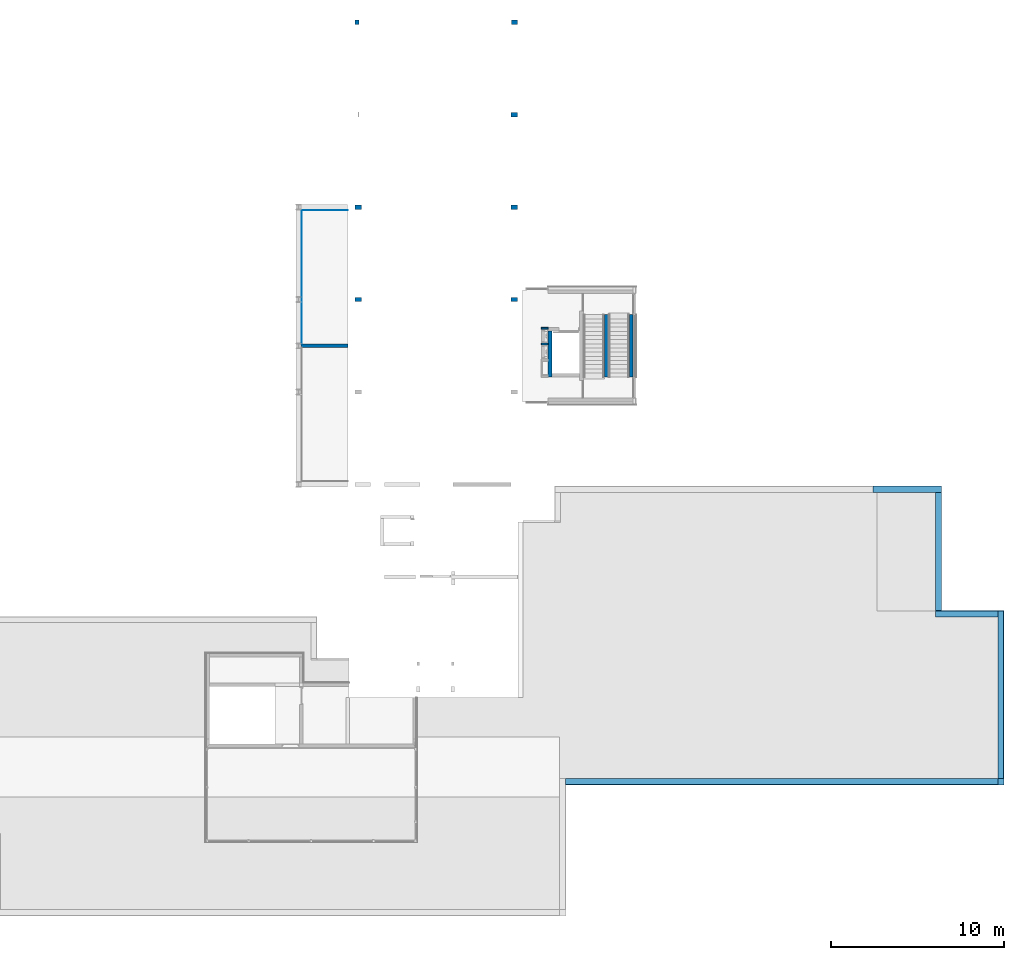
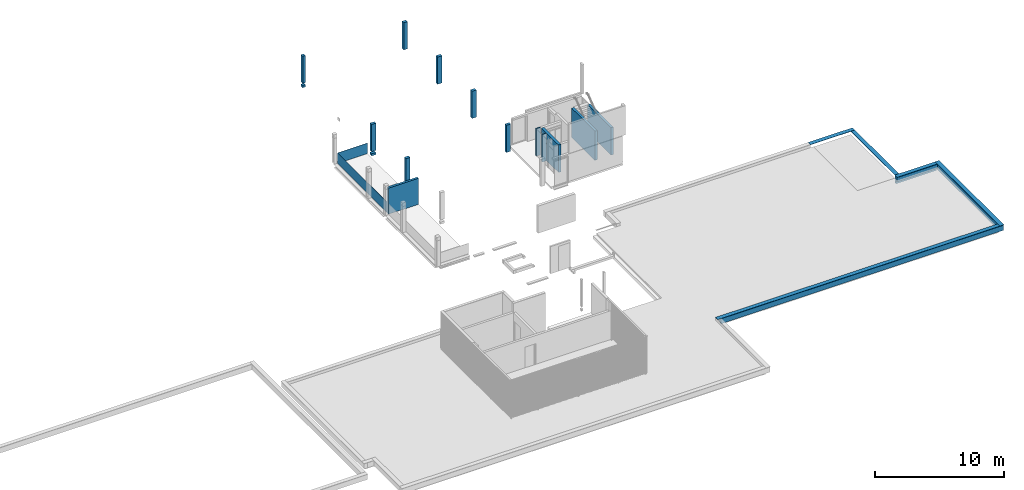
# One storey, part 6 of 22: 23 walls.
"""IFC2X3 building model written with IfcOpenShell, lengths in millimetres."""

from ifc_helpers import new_model, entity, si_unit, converted_unit, derived_unit, money_unit, direction, frame, origin_with_axes, place, context, subcontext, project, spatial, faceted_brep, material, type_object, element, save


model = new_model("IFC2X3")

# Units and contexts
model_context = context("Model", 3, precision=0.01, world=origin_with_axes(), true_north=direction((0.0, 1.0)))
body_context = subcontext(model_context, "Body", "Model", "MODEL_VIEW")
ifc_project = project(units=[si_unit("LENGTHUNIT", "METRE", prefix="MILLI"), si_unit("AREAUNIT", "SQUARE_METRE"), si_unit("VOLUMEUNIT", "CUBIC_METRE"), converted_unit("PLANEANGLEUNIT", "DEGREE", entity("IfcPlaneAngleMeasure", 0.0174532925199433), si_unit("PLANEANGLEUNIT", "RADIAN"), dimensions=[0, 0, 0, 0, 0, 0, 0]), money_unit("EUR"), converted_unit("TIMEUNIT", "Year", entity("IfcTimeMeasure", 31557600.0), si_unit("TIMEUNIT", "SECOND"), dimensions=[0, 0, 1, 0, 0, 0, 0]), si_unit("MASSUNIT", "GRAM", prefix="KILO"), si_unit("THERMODYNAMICTEMPERATUREUNIT", "DEGREE_CELSIUS"), si_unit("LUMINOUSINTENSITYUNIT", "LUMEN"), si_unit("ENERGYUNIT", "JOULE", prefix="MEGA"), derived_unit("THERMALCONDUCTANCEUNIT", [(si_unit("POWERUNIT", "WATT"), 1), (si_unit("LENGTHUNIT", "METRE"), -1), (si_unit("THERMODYNAMICTEMPERATUREUNIT", "KELVIN"), -1)]), derived_unit("SPECIFICHEATCAPACITYUNIT", [(si_unit("ENERGYUNIT", "JOULE"), 1), (si_unit("MASSUNIT", "GRAM", prefix="KILO"), -1), (si_unit("THERMODYNAMICTEMPERATUREUNIT", "KELVIN"), -1)]), derived_unit("MASSDENSITYUNIT", [(si_unit("MASSUNIT", "GRAM", prefix="KILO"), 1), (si_unit("VOLUMEUNIT", "CUBIC_METRE"), -1)])], contexts=[model_context])

# Site, building, storey
site_placement = place(None, origin_with_axes())
site = spatial("IfcSite", under=ifc_project, at=site_placement, Name="Site", CompositionType="ELEMENT")
building_placement = place(site_placement, origin_with_axes())
building = spatial("IfcBuilding", under=site, at=building_placement, Name="Naam gebouw", CompositionType="ELEMENT")
storey_placement = place(building_placement, frame((0.0, 0.0, 11150.0), z_axis=(0.0, 0.0, 1.0), x_axis=(1.0, 0.0, 0.0)))
storey = spatial("IfcBuildingStorey", under=building, at=storey_placement, Name="3e verdieping/dak N", CompositionType="ELEMENT", Elevation=11150.0)

# Walls
ifc_material_1 = material(Name="ALG - CONSTRUCTIEF")
wall_type_1 = type_object("IfcWallType", Name="ALG - CONSTRUCTIEF 330", PredefinedType="NOTDEFINED")
wall_1_placement = place(storey_placement, frame((57599.99999999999, 20325.9124251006, -299.9999761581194), z_axis=(0.0, 0.0, 1.0), x_axis=(-1.0, 0.0, 0.0)))
element("IfcWall", 1, at=wall_1_placement, inside=storey, type_object=wall_type_1, material=ifc_material_1, Name="_Wand-x", context=body_context, shape_type="Brep", body=[
    faceted_brep([(0.0, 0.0, 299.9999761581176), (0.0, -175.0000000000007, 299.9999761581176), (0.0, -175.0000000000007, -2.384188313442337e-05), (0.0, -329.9999999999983, 0.0), (0.0, -329.9999999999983, 699.9999761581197), (0.0, 0.0, 699.9999761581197), (3600.000000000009, -175.0000000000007, 299.9999761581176), (3600.000000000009, 0.0, 299.9999761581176), (3600.000000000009, -175.0000000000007, -2.384188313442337e-05), (3600.000000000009, -330.0000000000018, 0.0), (3600.000000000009, -330.0000000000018, 699.9999761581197), (3600.000000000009, 0.0, 699.9999761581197)], [[[0, 1, 2, 3, 4, 5]], [[6, 1, 0, 7]], [[8, 2, 1, 6]], [[3, 2, 8, 9]], [[10, 4, 3, 9]], [[4, 10, 11, 5]], [[11, 7, 0, 5]], [[8, 6, 7, 11, 10, 9]]]),
])
wall_2_placement = place(storey_placement, frame((57929.99999999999, 20655.9124251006, -99.99999999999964), z_axis=(0.0, 0.0, 1.0), x_axis=(0.0, -1.0, 0.0)))
element("IfcWall", 2, at=wall_2_placement, inside=storey, type_object=wall_type_1, material=ifc_material_1, Name="_Wand-x", context=body_context, shape_type="Brep", body=[
    faceted_brep([(9664.999999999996, -330.0000000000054, 500.0), (9664.999999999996, 0.0, 500.0), (0.0, 0.0, 500.0), (0.0, -329.9999999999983, 500.0), (9664.999999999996, -330.0000000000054, 0.0), (9664.999999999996, 0.0, 0.0), (0.0, 0.0, 0.0), (0.0, -329.9999999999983, 0.0)], [[[0, 1, 2, 3]], [[1, 0, 4, 5]], [[1, 5, 6, 2]], [[7, 3, 2, 6]], [[4, 0, 3, 7]], [[5, 4, 7, 6]]]),
])
wall_3_placement = place(storey_placement, frame((32675.4702600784, 10660.91242510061, -99.99999999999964), z_axis=(0.0, 0.0, 1.0), x_axis=(1.0, 0.0, 0.0)))
element("IfcWall", 3, at=wall_3_placement, inside=storey, type_object=wall_type_1, material=ifc_material_1, Name="_Wand-x", context=body_context, shape_type="Brep", body=[
    faceted_brep([(24924.52973992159, 330.000000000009, 0.0), (24924.52973992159, 330.000000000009, 99.99999999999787), (0.0, 330.0000000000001, 99.99999999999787), (0.0, 330.0000000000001, 500.0), (25254.52973992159, 330.000000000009, 500.0), (25254.52973992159, 330.000000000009, 0.0), (24924.52973992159, 161.8205560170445, 99.99999999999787), (24924.52973992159, 161.8205560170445, 0.0), (0.0, 167.0482814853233, 99.99999999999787), (634.8773906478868, 161.8205560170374, 99.99999999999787), (634.8773906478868, 167.0482814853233, 99.99999999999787), (0.0, 167.0482814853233, 0.0), (0.0, 0.0, 0.0), (0.0, 0.0, 500.0), (25254.52973992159, 0.0, 500.0), (25254.52973992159, 0.0, 0.0), (634.8773906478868, 161.8205560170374, 0.0), (634.8773906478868, 167.0482814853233, 0.0)], [[[0, 1, 2, 3, 4, 5]], [[6, 1, 0, 7]], [[8, 2, 1, 6, 9, 10]], [[2, 8, 11, 12, 13, 3]], [[13, 14, 4, 3]], [[14, 15, 5, 4]], [[16, 7, 0, 5, 15, 12, 11, 17]], [[6, 7, 16, 9]], [[9, 16, 17, 10]], [[10, 17, 11, 8]], [[12, 15, 14, 13]]]),
])
wall_type_2 = type_object("IfcWallType", Name="ALG - CONSTRUCTIEF 250", PredefinedType="NOTDEFINED")
wall_4_placement = place(storey_placement, frame((20545.0, 38615.91242510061, -99.99999999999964), z_axis=(0.0, 0.0, 1.0), x_axis=(1.0, 0.0, 0.0)))
element("IfcWall", 4, at=wall_4_placement, inside=storey, type_object=wall_type_2, material=ifc_material_1, Name="_Wand-x", context=body_context, shape_type="Brep", body=[
    faceted_brep([(0.0, 125.0, 0.0), (0.0, 125.0, 210.0000000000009), (370.0000000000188, 125.0, 210.0000000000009), (370.0000000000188, 125.0, 0.0), (0.0, -125.0, 0.0), (0.0, -125.0, 210.0000000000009), (370.0000000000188, -125.0, 210.0000000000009), (370.0000000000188, -125.0, 0.0)], [[[0, 1, 2, 3]], [[4, 5, 1, 0]], [[5, 6, 2, 1]], [[3, 2, 6, 7]], [[4, 0, 3, 7]], [[7, 6, 5, 4]]]),
    faceted_brep([(0.0, 125.0, 410.0000000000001), (0.0, 125.0, 2980.0), (370.0000000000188, 125.0, 2980.0), (370.0000000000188, 125.0, 410.0000000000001), (0.0, -125.0, 410.0000000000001), (0.0, -125.0, 2980.0), (370.0000000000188, -125.0, 2980.0), (370.0000000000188, -125.0, 410.0000000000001)], [[[0, 1, 2, 3]], [[4, 5, 1, 0]], [[5, 6, 2, 1]], [[3, 2, 6, 7]], [[4, 0, 3, 7]], [[7, 6, 5, 4]]]),
])
wall_5_placement = place(storey_placement, frame((29535.99999999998, 43945.9124251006, 310.0000000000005), z_axis=(0.0, 0.0, 1.0), x_axis=(1.0, 0.0, 0.0)))
element("IfcWall", 5, at=wall_5_placement, inside=storey, type_object=wall_type_2, material=ifc_material_1, Name="_Wand-x", context=body_context, shape_type="Brep", body=[
    faceted_brep([(370.0000000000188, 125.0, 0.0), (0.0, 125.0, 0.0), (0.0, 125.0, 2570.0), (370.0000000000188, 125.0, 2570.0), (0.0, -125.0, 0.0), (370.0000000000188, -125.0, 0.0), (0.0, -125.0, 2570.0), (370.0000000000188, -125.0, 2570.0)], [[[0, 1, 2, 3]], [[4, 1, 0, 5]], [[1, 4, 6, 2]], [[2, 6, 7, 3]], [[5, 0, 3, 7]], [[4, 5, 7, 6]]]),
])
wall_6_placement = place(storey_placement, frame((20545.0, 43945.9124251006, -99.99999999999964), z_axis=(0.0, 0.0, 1.0), x_axis=(1.0, 0.0, 0.0)))
element("IfcWall", 6, at=wall_6_placement, inside=storey, type_object=wall_type_2, material=ifc_material_1, Name="_Wand-x", context=body_context, shape_type="Brep", body=[
    faceted_brep([(0.0, 125.0, 0.0), (0.0, 125.0, 210.0000000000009), (370.0000000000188, 125.0, 210.0000000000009), (370.0000000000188, 125.0, 0.0), (0.0, -125.0, 0.0), (0.0, -125.0, 210.0000000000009), (370.0000000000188, -125.0, 210.0000000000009), (370.0000000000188, -125.0, 0.0)], [[[0, 1, 2, 3]], [[4, 5, 1, 0]], [[5, 6, 2, 1]], [[3, 2, 6, 7]], [[4, 0, 3, 7]], [[7, 6, 5, 4]]]),
    faceted_brep([(0.0, 125.0, 410.0000000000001), (0.0, 125.0, 2980.0), (370.0000000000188, 125.0, 2980.0), (370.0000000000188, 125.0, 410.0000000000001), (0.0, -125.0, 410.0000000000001), (0.0, -125.0, 2980.0), (370.0000000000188, -125.0, 2980.0), (370.0000000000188, -125.0, 410.0000000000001)], [[[0, 1, 2, 3]], [[4, 5, 1, 0]], [[5, 6, 2, 1]], [[3, 2, 6, 7]], [[4, 0, 3, 7]], [[7, 6, 5, 4]]]),
])
wall_7_placement = place(storey_placement, frame((20536.0, 54605.9124251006, -99.99999999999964), z_axis=(0.0, 0.0, 1.0), x_axis=(1.0, 0.0, 0.0)))
element("IfcWall", 7, at=wall_7_placement, inside=storey, type_object=wall_type_2, material=ifc_material_1, Name="_Wand-x", context=body_context, shape_type="Brep", body=[
    faceted_brep([(0.0, 125.0, 0.0), (0.0, 125.0, 210.0000000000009), (234.0000000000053, 125.0, 210.0000000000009), (234.0000000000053, 125.0, 0.0), (0.0, -125.0, 0.0), (0.0, -125.0, 210.0000000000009), (234.0000000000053, -125.0, 210.0000000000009), (234.0000000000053, -125.0, 0.0)], [[[0, 1, 2, 3]], [[4, 5, 1, 0]], [[5, 6, 2, 1]], [[3, 2, 6, 7]], [[3, 7, 4, 0]], [[7, 6, 5, 4]]]),
    faceted_brep([(0.0, 125.0, 410.0000000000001), (0.0, 125.0, 2980.0), (234.0000000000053, 125.0, 2980.0), (234.0000000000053, 125.0, 410.0000000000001), (0.0, -125.0, 410.0000000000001), (0.0, -125.0, 2980.0), (234.0000000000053, -125.0, 2980.0), (234.0000000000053, -125.0, 410.0000000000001)], [[[0, 1, 2, 3]], [[4, 5, 1, 0]], [[5, 6, 2, 1]], [[3, 2, 6, 7]], [[4, 0, 3, 7]], [[7, 6, 5, 4]]]),
])
wall_8_placement = place(storey_placement, frame((29535.99999999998, 49275.9124251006, 310.0000000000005), z_axis=(0.0, 0.0, 1.0), x_axis=(1.0, 0.0, 0.0)))
element("IfcWall", 8, at=wall_8_placement, inside=storey, type_object=wall_type_2, material=ifc_material_1, Name="_Wand-x", context=body_context, shape_type="Brep", body=[
    faceted_brep([(370.0000000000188, 125.0, 0.0), (0.0, 125.0, 0.0), (0.0, 125.0, 2570.0), (370.0000000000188, 125.0, 2570.0), (0.0, -125.0, 0.0), (370.0000000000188, -125.0, 0.0), (0.0, -125.0, 2570.0), (370.0000000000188, -125.0, 2570.0)], [[[0, 1, 2, 3]], [[4, 1, 0, 5]], [[1, 4, 6, 2]], [[2, 6, 7, 3]], [[5, 0, 3, 7]], [[4, 5, 7, 6]]]),
])
wall_9_placement = place(storey_placement, frame((29574.99999999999, 54605.9124251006, 310.0000000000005), z_axis=(0.0, 0.0, 1.0), x_axis=(1.0, 0.0, 0.0)))
element("IfcWall", 9, at=wall_9_placement, inside=storey, type_object=wall_type_2, material=ifc_material_1, Name="_Wand-x", context=body_context, shape_type="Brep", body=[
    faceted_brep([(331.0000000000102, 125.0, 0.0), (0.0, 125.0, 0.0), (0.0, 125.0, 2570.0), (331.0000000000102, 125.0, 2570.0), (0.0, -125.0, 0.0), (331.0000000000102, -125.0, 0.0), (0.0, -125.0, 2570.0), (331.0000000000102, -125.0, 2570.0)], [[[0, 1, 2, 3]], [[4, 1, 0, 5]], [[1, 4, 6, 2]], [[2, 6, 7, 3]], [[5, 0, 3, 7]], [[4, 5, 7, 6]]]),
])
wall_10_placement = place(storey_placement, frame((29535.99999999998, 38615.91242510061, 310.0000000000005), z_axis=(0.0, 0.0, 1.0), x_axis=(1.0, 0.0, 0.0)))
element("IfcWall", 10, at=wall_10_placement, inside=storey, type_object=wall_type_2, material=ifc_material_1, Name="_Wand-x", context=body_context, shape_type="Brep", body=[
    faceted_brep([(370.0000000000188, 125.0, 0.0), (0.0, 125.0, 0.0), (0.0, 125.0, 2570.0), (370.0000000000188, 125.0, 2570.0), (0.0, -125.0, 0.0), (370.0000000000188, -125.0, 0.0), (0.0, -125.0, 2570.0), (370.0000000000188, -125.0, 2570.0)], [[[0, 1, 2, 3]], [[4, 1, 0, 5]], [[1, 4, 6, 2]], [[2, 6, 7, 3]], [[5, 0, 3, 7]], [[4, 5, 7, 6]]]),
])
ifc_material_2 = material(Name="kalkzandsteen")
wall_type_3 = type_object("IfcWallType", Name="Basic Wall:NLRS_28_kalkzandsteen 100mm", PredefinedType="STANDARD")
wall_11_placement = place(storey_placement, frame((31684.00000003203, 36963.91242631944, 310.0000000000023), z_axis=(0.0, 0.0, 1.0), x_axis=(-1.0, -1.481110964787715e-10, 0.0)))
element("IfcWall", 11, at=wall_11_placement, inside=storey, type_object=wall_type_3, material=ifc_material_2, Name="Basic Wall:NLRS_28_kalkzandsteen 100mm", context=body_context, shape_type="Brep", body=[
    faceted_brep([(7.407408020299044e-09, 50.00000004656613, 0.0), (392.9999999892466, 49.99999998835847, 0.0), (392.9999999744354, -50.00000004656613, 0.0), (-7.403855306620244e-09, -49.99999998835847, 0.0), (7.407408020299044e-09, 50.00000004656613, 2600.000000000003), (392.9999999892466, 49.99999998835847, 2600.000000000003), (392.9999999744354, -50.00000004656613, 2600.000000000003), (-7.403855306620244e-09, -49.99999998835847, 2600.000000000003)], [[[0, 1, 2, 3]], [[4, 5, 1, 0]], [[2, 1, 5, 6]], [[3, 2, 6, 7]], [[4, 0, 3, 7]], [[7, 6, 5, 4]]]),
])
wall_12_placement = place(storey_placement, frame((31791.00000002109, 36049.91242627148, 310.0000000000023), z_axis=(0.0, 0.0, 1.0), x_axis=(-1.0, 0.0, 0.0)))
element("IfcWall", 12, at=wall_12_placement, inside=storey, type_object=wall_type_3, material=ifc_material_2, Name="Basic Wall:NLRS_28_kalkzandsteen 100mm", context=body_context, shape_type="Brep", body=[
    faceted_brep([(106.999999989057, 49.99999998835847, 0.0), (499.9999999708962, 49.99999998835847, 0.0), (499.9999999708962, -49.99999998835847, 0.0), (106.999999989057, -49.99999998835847, 0.0), (106.999999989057, 49.99999998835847, 2600.000000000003), (499.9999999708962, 49.99999998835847, 2600.000000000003), (499.9999999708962, -49.99999998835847, 2600.000000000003), (106.999999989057, -49.99999998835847, 2600.000000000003)], [[[0, 1, 2, 3]], [[4, 5, 1, 0]], [[2, 1, 5, 6]], [[3, 2, 6, 7]], [[4, 0, 3, 7]], [[7, 6, 5, 4]]]),
])
wall_type_4 = type_object("IfcWallType", Name="Basic Wall:NLRS_28_kalkzandsteen 214mm", PredefinedType="STANDARD")
wall_13_placement = place(storey_placement, frame((31791.00000002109, 36906.91242628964, 310.0000000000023), z_axis=(0.0, 0.0, 1.0), x_axis=(0.0, -1.0, 0.0)))
element("IfcWall", 13, at=wall_13_placement, inside=storey, type_object=wall_type_4, material=ifc_material_2, Name="Basic Wall:NLRS_28_kalkzandsteen 214mm", context=body_context, shape_type="Brep", body=[
    faceted_brep([(2761.000000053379, 107.0000000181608, 0.0), (107.0000001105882, 107.0000000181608, 0.0), (107.0000000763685, 107.0000000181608, 2600.000000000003), (2761.000000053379, 107.0000000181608, 2600.000000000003), (2761.000000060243, -106.999999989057, 0.0), (107.0000000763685, -106.999999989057, 0.0), (107.0000000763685, -106.999999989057, 2600.000000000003), (2761.000000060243, -106.999999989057, 2600.000000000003)], [[[0, 1, 2, 3]], [[4, 5, 1, 0]], [[5, 6, 2, 1]], [[3, 2, 6, 7]], [[4, 0, 3, 7]], [[7, 6, 5, 4]]]),
])
wall_14_placement = place(storey_placement, frame((36473.00000005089, 37745.91242626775, 310.0000000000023), z_axis=(0.0, 0.0, 1.0), x_axis=(0.0, -1.0, 0.0)))
element("IfcWall", 14, at=wall_14_placement, inside=storey, type_object=wall_type_4, material=ifc_material_2, Name="Basic Wall:NLRS_28_kalkzandsteen 214mm", context=body_context, shape_type="Brep", body=[
    faceted_brep([(0.0, 106.999999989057, 0.0), (3599.999999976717, 106.999999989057, 0.0), (3599.999999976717, -107.0000000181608, 0.0), (0.0, -107.0000000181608, 0.0), (0.0, 106.999999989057, 2600.000000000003), (3599.999999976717, 106.999999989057, 2600.000000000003), (3599.999999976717, -107.0000000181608, 2600.000000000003), (0.0, -107.0000000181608, 2600.000000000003)], [[[0, 1, 2, 3]], [[4, 5, 1, 0]], [[2, 1, 5, 6]], [[3, 2, 6, 7]], [[4, 0, 3, 7]], [[7, 6, 5, 4]]]),
])
wall_15_placement = place(storey_placement, frame((35039.00000004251, 34145.91242629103, 310.0000000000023), z_axis=(0.0, 0.0, 1.0), x_axis=(0.0, 1.0, 0.0)))
element("IfcWall", 15, at=wall_15_placement, inside=storey, type_object=wall_type_4, material=ifc_material_2, Name="Basic Wall:NLRS_28_kalkzandsteen 214mm", context=body_context, shape_type="Brep", body=[
    faceted_brep([(0.0, 106.999999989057, 0.0), (3599.999999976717, 106.999999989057, 0.0), (3599.999999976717, -107.0000000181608, 0.0), (0.0, -107.0000000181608, 0.0), (0.0, 106.999999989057, 2770.000000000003), (3599.999999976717, 106.999999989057, 2770.000000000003), (3599.999999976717, -107.0000000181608, 2770.000000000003), (0.0, -107.0000000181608, 2770.000000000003)], [[[0, 1, 2, 3]], [[4, 5, 1, 0]], [[2, 1, 5, 6]], [[3, 2, 6, 7]], [[4, 0, 3, 7]], [[7, 6, 5, 4]]]),
])
ifc_material_3 = material(Name="glas gehard")
wall_type_5 = type_object("IfcWallType", Name="Basic Wall:34_WA_hard glazen balustrade", PredefinedType="STANDARD")
wall_16_placement = place(storey_placement, frame((20141.00000002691, 43765.91242628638, 310.0000000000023), z_axis=(0.0, 0.0, 1.0), x_axis=(-1.0, 0.0, 0.0)))
element("IfcWall", 16, at=wall_16_placement, inside=storey, type_object=wall_type_5, material=ifc_material_3, Name="Basic Wall:34_WA_hard glazen balustrade", context=body_context, shape_type="Brep", body=[
    faceted_brep([(2674.999999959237, -5.000000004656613, 0.0), (0.0, -5.000000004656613, 0.0), (0.0, 5.000000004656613, 0.0), (2674.999999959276, 5.000000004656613, 0.0), (2674.999999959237, -5.000000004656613, 1000.0), (0.0, -5.000000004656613, 1000.0), (0.0, 5.000000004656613, 1000.0), (2674.999999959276, 5.000000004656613, 1000.0)], [[[0, 1, 2, 3]], [[4, 5, 1, 0]], [[2, 1, 5, 6]], [[3, 2, 6, 7]], [[3, 7, 4, 0]], [[7, 6, 5, 4]]]),
])
wall_17_placement = place(storey_placement, frame((17471.00000007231, 43765.91242628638, 310.0000000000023), z_axis=(0.0, 0.0, 1.0), x_axis=(0.0, -1.0, 0.0)))
element("IfcWall", 17, at=wall_17_placement, inside=storey, type_object=wall_type_5, material=ifc_material_3, Name="Basic Wall:34_WA_hard glazen balustrade", context=body_context, shape_type="Brep", body=[
    faceted_brep([(7695.000000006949, 5.000000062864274, 0.0), (7695.000000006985, -4.999999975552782, 0.0), (5.000000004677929, -5.000000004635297, 0.0), (5.000000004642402, 5.00000003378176, 0.0), (7695.000000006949, 5.000000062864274, 1000.0), (7695.000000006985, -4.999999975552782, 1000.0), (5.000000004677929, -5.000000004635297, 1000.0), (5.000000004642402, 5.00000003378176, 1000.0)], [[[0, 1, 2, 3]], [[0, 4, 5, 1]], [[1, 5, 6, 2]], [[3, 2, 6, 7]], [[4, 0, 3, 7]], [[5, 4, 7, 6]]]),
])
ifc_material_4 = material(Name="Wall Basis")
wall_type_6 = type_object("IfcWallType", Name="Basic Wall:NLRS_20_basis 200mm", PredefinedType="STANDARD")
wall_18_placement = place(storey_placement, frame((20140.9999999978, 35950.91242628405, 310.0000000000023), z_axis=(0.0, 0.0, 1.0), x_axis=(-1.0, 0.0, 0.0)))
element("IfcWall", 18, at=wall_18_placement, inside=storey, type_object=wall_type_6, material=ifc_material_4, Name="Basic Wall:NLRS_20_basis 200mm", context=body_context, shape_type="Brep", body=[
    faceted_brep([(-2.156497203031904e-09, 100.0000000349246, 0.0), (2698.999999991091, 100.0000000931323, 0.0), (2698.999999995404, -99.99999991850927, 0.0), (2.156497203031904e-09, -99.99999997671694, 0.0), (-2.156497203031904e-09, 100.0000000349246, 2470.0), (2698.999999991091, 100.0000000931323, 2470.0), (2698.999999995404, -99.99999991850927, 2470.0), (2.156497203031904e-09, -99.99999997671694, 2470.0)], [[[0, 1, 2, 3]], [[4, 5, 1, 0]], [[2, 1, 5, 6]], [[3, 2, 6, 7]], [[4, 0, 3, 7]], [[7, 6, 5, 4]]]),
])
ifc_material_5 = material(Name="ALG - BUITENAFWERKING")
wall_type_7 = type_object("IfcWallType", Name="ALG - BUITENAFWERKING 360", PredefinedType="NOTDEFINED")
wall_19_placement = place(storey_placement, frame((57929.99999999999, 20325.9124251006, 400.0000000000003), z_axis=(0.0, 0.0, 1.0), x_axis=(0.0, -1.0, 0.0)))
element("IfcWall", 19, at=wall_19_placement, inside=storey, type_object=wall_type_7, material=ifc_material_5, Name="_Wand-x", context=body_context, shape_type="Brep", body=[
    faceted_brep([(9694.999999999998, -330.0000000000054, 25.00000000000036), (9694.999999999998, 29.99999999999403, 25.00000000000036), (-359.9999999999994, 30.00000000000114, 25.00000000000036), (-359.9999999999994, -329.9999999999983, 25.00000000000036), (9694.999999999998, -330.0000000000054, 0.0), (9694.999999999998, 29.99999999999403, 0.0), (-359.9999999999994, 30.00000000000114, 0.0), (-359.9999999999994, -329.9999999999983, 0.0)], [[[0, 1, 2, 3]], [[1, 0, 4, 5]], [[1, 5, 6, 2]], [[7, 3, 2, 6]], [[4, 0, 3, 7]], [[5, 4, 7, 6]]]),
])
wall_20_placement = place(storey_placement, frame((32345.4702600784, 10660.91242510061, 400.0000000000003), z_axis=(0.0, 0.0, 1.0), x_axis=(1.0, 0.0, 0.0)))
element("IfcWall", 20, at=wall_20_placement, inside=storey, type_object=wall_type_7, material=ifc_material_5, Name="_Wand-x", context=body_context, shape_type="Brep", body=[
    faceted_brep([(25254.5297399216, 330.000000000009, 0.0), (25254.5297399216, -29.99999999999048, 0.0), (0.0, -29.99999999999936, 0.0), (0.0, 330.0000000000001, 0.0), (25254.5297399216, 330.000000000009, 25.00000000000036), (25254.5297399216, -29.99999999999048, 25.00000000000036), (0.0, -29.99999999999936, 25.00000000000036), (0.0, 330.0000000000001, 25.00000000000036)], [[[0, 1, 2, 3]], [[1, 0, 4, 5]], [[1, 5, 6, 2]], [[7, 3, 2, 6]], [[4, 0, 3, 7]], [[5, 4, 7, 6]]]),
])
wall_21_placement = place(storey_placement, frame((57929.99999999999, 20325.9124251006, 400.0000000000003), z_axis=(0.0, 0.0, 1.0), x_axis=(-1.0, 0.0, 0.0)))
element("IfcWall", 21, at=wall_21_placement, inside=storey, type_object=wall_type_7, material=ifc_material_5, Name="_Wand-x", context=body_context, shape_type="Brep", body=[
    faceted_brep([(3930.000000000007, -359.9999999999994, 25.00000000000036), (3930.000000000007, 0.0, 25.00000000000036), (329.9999999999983, 0.0, 25.00000000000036), (329.9999999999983, -359.9999999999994, 25.00000000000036), (3930.000000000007, -359.9999999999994, 0.0), (3930.000000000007, 0.0, 0.0), (329.9999999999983, 0.0, 0.0), (329.9999999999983, -359.9999999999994, 0.0)], [[[0, 1, 2, 3]], [[1, 0, 4, 5]], [[1, 5, 6, 2]], [[7, 3, 2, 6]], [[4, 0, 3, 7]], [[5, 4, 7, 6]]]),
])
wall_22_placement = place(storey_placement, frame((53999.99999999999, 20325.9124251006, 400.0000000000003), z_axis=(0.0, 0.0, 1.0), x_axis=(0.0, 1.0, 0.0)))
element("IfcWall", 22, at=wall_22_placement, inside=storey, type_object=wall_type_7, material=ifc_material_5, Name="_Wand-x", context=body_context, shape_type="Brep", body=[
    faceted_brep([(7180.000000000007, -359.9999999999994, 25.00000000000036), (7180.000000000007, 0.0, 25.00000000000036), (359.9999999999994, 0.0, 25.00000000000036), (359.9999999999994, -359.9999999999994, 25.00000000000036), (7180.000000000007, -359.9999999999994, 0.0), (7180.000000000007, 0.0, 0.0), (359.9999999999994, 0.0, 0.0), (359.9999999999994, -359.9999999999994, 0.0)], [[[0, 1, 2, 3]], [[1, 0, 4, 5]], [[1, 5, 6, 2]], [[7, 3, 2, 6]], [[4, 0, 3, 7]], [[5, 4, 7, 6]]]),
])
wall_23_placement = place(storey_placement, frame((53999.99999999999, 27505.91242510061, 400.0000000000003), z_axis=(0.0, 0.0, 1.0), x_axis=(-1.0, 0.0, 0.0)))
element("IfcWall", 23, at=wall_23_placement, inside=storey, type_object=wall_type_7, material=ifc_material_5, Name="_Wand-x", context=body_context, shape_type="Brep", body=[
    faceted_brep([(-359.9999999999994, -359.9999999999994, 25.00000000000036), (3600.000000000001, -359.9999999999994, 25.00000000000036), (3600.000000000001, 0.0, 25.00000000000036), (-359.9999999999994, 0.0, 25.00000000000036), (-359.9999999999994, -359.9999999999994, 0.0), (3600.000000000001, -359.9999999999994, 0.0), (3600.000000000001, 0.0, 0.0), (-359.9999999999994, 0.0, 0.0)], [[[0, 1, 2, 3]], [[4, 5, 1, 0]], [[2, 1, 5, 6]], [[3, 2, 6, 7]], [[4, 0, 3, 7]], [[7, 6, 5, 4]]]),
])

save(model, "model.ifc")
